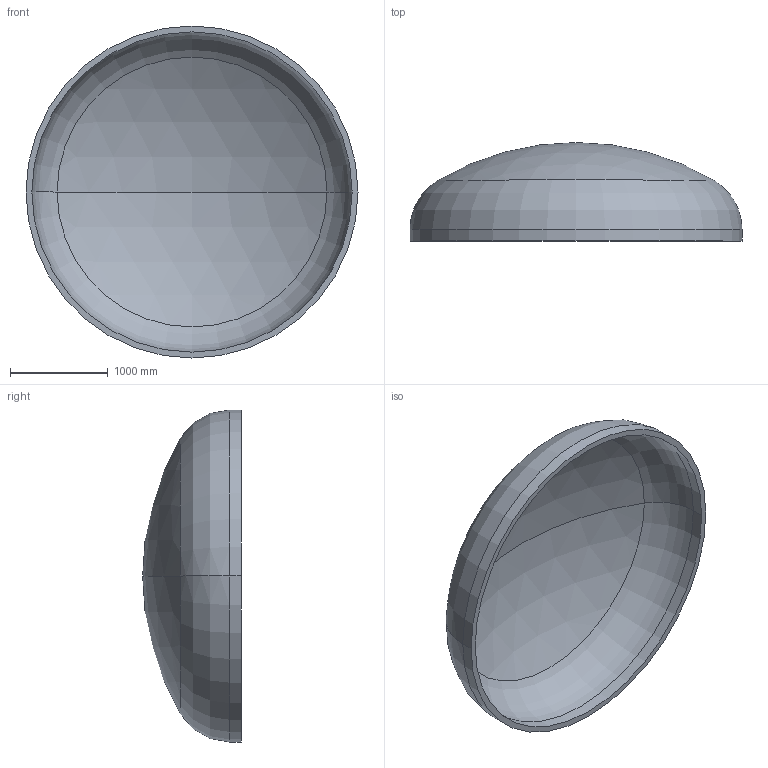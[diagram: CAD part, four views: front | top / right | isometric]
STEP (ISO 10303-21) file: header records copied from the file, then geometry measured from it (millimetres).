
FILE_DESCRIPTION (( 'STEP AP203' ), '1' );
FILE_NAME ('DIN 28013 Korbbogenform_-_Boden DIN 28013 - 3400 x 120 - I - s=60.step', '2016-07-01T19:39:01', ( '' ), ( '' ), 'SwSTEP 2.0', 'SolidWorks 2013', '' );
FILE_SCHEMA (( 'CONFIG_CONTROL_DESIGN' ));
Length unit declared in the file: millimetre
Products named in the file (1): DIN 28013 Korbbogenform_-_Boden DIN 28013 - 3400 x 120 - I - s=60
Bounding box: 3400 x 1009.29 x 3400 mm (x, y, z)
Volume: 813059973.8 mm3; surface area: 27739104.7 mm2
Topology: 1 solids, 1 shells, 13 faces, 24 edges, 14 vertices
Faces by surface type: torus 4, cylinder 4, sphere 4, plane 1
Entity records: 407 total; most frequent: DIRECTION 72, CARTESIAN_POINT 52, ORIENTED_EDGE 48, AXIS2_PLACEMENT_3D 34, EDGE_CURVE 24, CIRCLE 20, VERTEX_POINT 14, EDGE_LOOP 14
